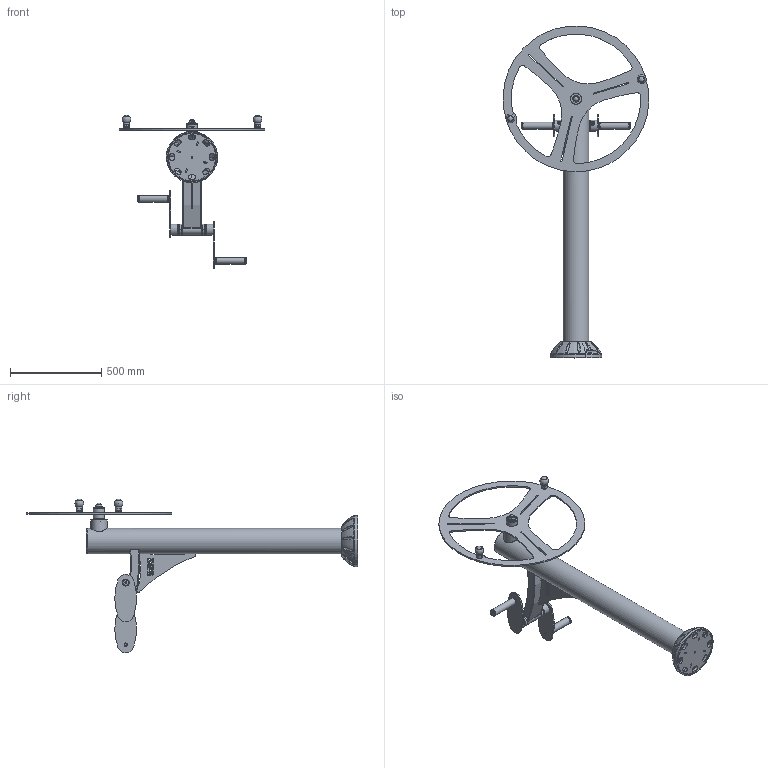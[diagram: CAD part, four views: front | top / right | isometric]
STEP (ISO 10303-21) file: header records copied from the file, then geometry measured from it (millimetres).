
FILE_DESCRIPTION (( 'STEP AP214' ), '1' );
FILE_NAME ('S0215 - DUO BARREUR-TOURNIQUET V1.1.STEP', '2017-03-02T21:37:15', ( '' ), ( '' ), 'SwSTEP 2.0', 'SolidWorks 2016', '' );
FILE_SCHEMA (( 'AUTOMOTIVE_DESIGN' ));
Length unit declared in the file: millimetre
Products named in the file (45): SC0307 - Capuchon vis 6 pans 5mm Bulte 35052; SP0605 - Poignee plastique D.33,7 L=170; SR0433 - Rondelle plastique bouchon bague D60 d.25; SRR0804 - Roulement 6205 52-25-15; PALIER-S0203 - PALIER BARREUR V1.0; SP0608 - Poignée plastique tournante ELESA 247011; PLATINE BASE ASS V2.0_RAL7012; TROSM-90-100 - Tube D.88,9x3 L=100 V1.0; PU-TOLROND89-25 - Rondelle pour tube D.89 percée d.25 V1.0; SR0410 - Rondelle Grower M10 A2; PU-TDRFIT225 - Tole renfort tube rectangulaire cintré R750 V1.0; PU-TOLROND89-20 - Rondelle pour tube D.89 percée d.20 V1.0; SCH1806.A - Chapeau D135 V1.0; SA1431 - Axe acier D.25 L272 V1.0; PU-TOLGOPL - Gousset platine V2.0; SC0306C - Petit capuchon en nylon 36 mm; SR0421 - Rondelle plate M8 diamètre Ext. 30 mm A2; PU-TROCB1470BTO - Colonne base haute D.139,7x3 Ht1470 Barreur Tourniquet V1.0; SC0306B - Base pour capuchon en nylon 36mm; PU-TOLPLAT - Platine base V1.0; TOLROUE-S0203.A - Roue barreur V1.1; MANIV-S0213 - MANIVELLE TOURNIQUET V2.1; SRR0816 - Roulement  6204 47-20-14; SBA1601 - Bague 6204 L60 V1.0; BATI-S0215 - BATI DUO BARREUR-TOURNIQUET V1.1; SC0304 - Demi cache platine D140 V4.0; SB0104 - Vis Torx teton central M10x20; SA1440 - Goupille avec plat D.15 V1.0; SA1411.B - Axe articulation Inox 303 D25 L216 V3.1; SR0416 - Rondelle plate petite M10 A2 ext 22mm; SBA1603.A - Bague manivelle support goupille V2.0; PU-TRETRAV400 - Tube rectangulaire cintré R750 100x50x3 L400 V1.0; SF1101 - Ecrou frein M10 A2; ROUE-S0203 - ROUE BARREUR V1.1; SPC0818 - Palier à collerette 15x19x23-16 V1.0; SF1113 - Ecrou M10 A2_default; SR0427 - Rondelle plastique bouchon bague D60 d.20; SBA1602.A - Bague 6205 L144 V1.0; SB0112 - Vis Torx teton central M8x20_M8x20; SA1414.A - Axe poignée Inox D.20mm L173,5 V2.1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
Assembly tree (59 placements, depth 4):
  S0215 - DUO BARREUR-TOURNIQUET V1.1
    BATI-S0215 - BATI DUO BARREUR-TOURNIQUET V1.1
      PU-TROCB1470BTO - Colonne base haute D.139,7x3 Ht1470 Barreur Tourniquet V1.0
      PU-TRETRAV400 - Tube rectangulaire cintré R750 100x50x3 L400 V1.0
      PU-TDRFIT225 - Tole renfort tube rectangulaire cintré R750 V1.0
      SCH1806.A - Chapeau D135 V1.0
      PLATINE BASE ASS V2.0_RAL7012
        PU-TOLPLAT - Platine base V1.0
        PU-TOLGOPL - Gousset platine V2.0  x4
      SBA1602.A - Bague 6205 L144 V1.0
      PALIER-S0203 - PALIER BARREUR V1.0
        TROSM-90-100 - Tube D.88,9x3 L=100 V1.0
        SA1431 - Axe acier D.25 L272 V1.0
        PU-TOLROND89-20 - Rondelle pour tube D.89 percée d.20 V1.0
        PU-TOLROND89-25 - Rondelle pour tube D.89 percée d.25 V1.0
    SC0304 - CACHE PLATINE ASS V4.0
      SC0304 - Demi cache platine D140 V4.0
      SB0112 - Vis Torx teton central M8x20_M8x20  x2
    SRR0804 - Roulement 6205 52-25-15  x2
    SA1411.B - Axe articulation Inox 303 D25 L216 V3.1
    MANIV-S0213 - MANIVELLE TOURNIQUET V2.1  x2
      TOLMAN-PMR0703 - Manivelle poignée Tourniquet V2.0_V‚lo elliptique
      SBA1603.A - Bague manivelle support goupille V2.0
      SA1440 - Goupille avec plat D.15 V1.0
      SA1414.A - Axe poignée Inox D.20mm L173,5 V2.1
      SR0423 - Entretoise Nylon 20x28x7,5mm V1.0
      SBA1604.A - Bague support poignée V1.3
      SPC0818 - Palier à collerette 15x19x23-16 V1.0
      SR0421 - Rondelle plate M8 diamètre Ext. 30 mm A2
      SB0112 - Vis Torx teton central M8x20_M8x20
      SP0605 - Poignee plastique D.33,7 L=170
      SR0416 - Rondelle plate petite M10 A2 ext 22mm
      SB0104 - Vis Torx teton central M10x20
      SR0410 - Rondelle Grower M10 A2
    ROUE-S0203 - ROUE BARREUR V1.1
      TOLROUE-S0203.A - Roue barreur V1.1
      SBA1601 - Bague 6204 L60 V1.0
    SRR0816 - Roulement  6204 47-20-14  x2
    SR0427 - Rondelle plastique bouchon bague D60 d.20  x2
    SC0306B - Base pour capuchon en nylon 36mm
    SR0416 - Rondelle plate petite M10 A2 ext 22mm
    SF1101 - Ecrou frein M10 A2
    SC0306C - Petit capuchon en nylon 36 mm
    SF1113 - Ecrou M10 A2_default  x2
    SP0608 - Poignée plastique tournante ELESA 247011  x2
    SC0307 - Capuchon vis 6 pans 5mm Bulte 35052  x2
    SR0433 - Rondelle plastique bouchon bague D60 d.25  x2
Bounding box: 798.67 x 1819.34 x 841.87 mm (x, y, z)
Volume: 7252367.1 mm3; surface area: 3021614.4 mm2
Topology: 83 solids, 83 shells, 1533 faces, 3515 edges, 2261 vertices
Faces by surface type: plane 504, cylinder 420, bspline 294, cone 185, torus 96, sphere 34
Full cylindrical faces by diameter (mm): 1.8 x4, 2.64 x2, 5.3 x2, 6.5 x2, 6.647 x2, 6.8 x2, 6.95 x4, 8 x4, 8.16 x2, 8.25 x2, 8.3 x2, 8.376 x2, 8.5 x8, 9.3 x2, 10 x8, 10.4 x1, 10.5 x9, 10.8 x2, 15 x6, 15.3 x2, 17 x3, 17.5 x2, 18 x4, 19 x4, 19.3 x4, 20 x7, 20.2 x3, 22 x4, 23 x4, 25 x4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
Entity records: 107108 total; most frequent: CARTESIAN_POINT 81816, ORIENTED_EDGE 4406, DIRECTION 4069, EDGE_CURVE 2203, AXIS2_PLACEMENT_3D 1706, VERTEX_POINT 1552, EDGE_LOOP 1551, FACE_OUTER_BOUND 1244
